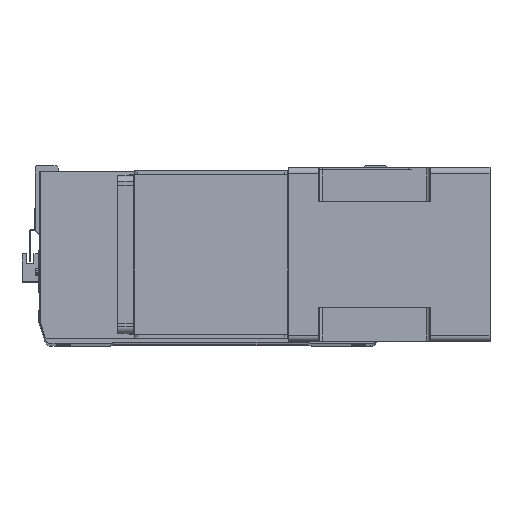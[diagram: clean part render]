
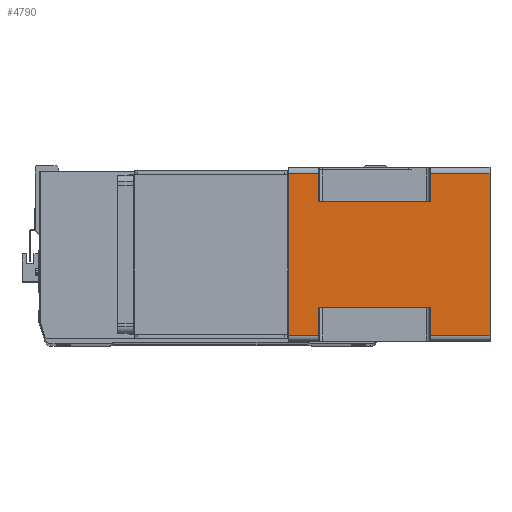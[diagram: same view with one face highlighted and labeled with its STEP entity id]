
A CAD part, top view. The second image highlights one B-rep face of the part: STEP entity #4790.
In plain terms, the highlighted planar face has unit normal (0, 0, 1) as drawn and (1, 0, 0) by its records, which use the part's own axes.
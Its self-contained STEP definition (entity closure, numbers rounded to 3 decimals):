
#24 = VECTOR ( 'NONE', #29587, 1000. ) ;
#300 = CARTESIAN_POINT ( 'NONE',  ( 71., -66., -24.5 ) ) ;
#364 = DIRECTION ( 'NONE',  ( 0., 1., 0. ) ) ;
#987 = CARTESIAN_POINT ( 'NONE',  ( 71., 66., -164. ) ) ;
#1366 = EDGE_CURVE ( 'NONE', #1552, #17228, #29724, .T. ) ;
#1520 = ORIENTED_EDGE ( 'NONE', *, *, #24515, .F. ) ;
#1552 = VERTEX_POINT ( 'NONE', #29977 ) ;
#2183 = LINE ( 'NONE', #26926, #20981 ) ;
#2441 = LINE ( 'NONE', #25177, #19812 ) ;
#2492 = VECTOR ( 'NONE', #27134, 1000. ) ;
#2821 = ORIENTED_EDGE ( 'NONE', *, *, #29781, .T. ) ;
#2990 = CARTESIAN_POINT ( 'NONE',  ( 71., -66., -164. ) ) ;
#3264 = VERTEX_POINT ( 'NONE', #300 ) ;
#3336 = CARTESIAN_POINT ( 'NONE',  ( 71., -66., -164. ) ) ;
#3593 = LINE ( 'NONE', #6299, #2492 ) ;
#3773 = EDGE_LOOP ( 'NONE', ( #1520, #5082, #20922, #17306, #19549, #2821, #7108, #7406, #15805, #6556, #18055, #8919 ) ) ;
#4172 = LINE ( 'NONE', #3336, #25496 ) ;
#4242 = CARTESIAN_POINT ( 'NONE',  ( 71., -66., -164. ) ) ;
#4362 = LINE ( 'NONE', #2990, #28265 ) ;
#4790 = ADVANCED_FACE ( 'NONE', ( #13555 ), #6046, .T. ) ;
#5082 = ORIENTED_EDGE ( 'NONE', *, *, #1366, .T. ) ;
#5339 = EDGE_CURVE ( 'NONE', #12382, #9876, #18567, .T. ) ;
#5819 = CARTESIAN_POINT ( 'NONE',  ( 71., -43., -24.5 ) ) ;
#6046 = PLANE ( 'NONE',  #11086 ) ;
#6299 = CARTESIAN_POINT ( 'NONE',  ( 71., 43., -115.5 ) ) ;
#6436 = VERTEX_POINT ( 'NONE', #14522 ) ;
#6556 = ORIENTED_EDGE ( 'NONE', *, *, #11694, .F. ) ;
#6721 = EDGE_CURVE ( 'NONE', #12382, #6436, #15840, .T. ) ;
#6904 = DIRECTION ( 'NONE',  ( 0., 1., 0. ) ) ;
#7108 = ORIENTED_EDGE ( 'NONE', *, *, #5339, .F. ) ;
#7406 = ORIENTED_EDGE ( 'NONE', *, *, #6721, .T. ) ;
#7603 = CARTESIAN_POINT ( 'NONE',  ( 71., 66., -115.5 ) ) ;
#7710 = EDGE_CURVE ( 'NONE', #15118, #12422, #27899, .T. ) ;
#8288 = DIRECTION ( 'NONE',  ( 0., 1., 0. ) ) ;
#8919 = ORIENTED_EDGE ( 'NONE', *, *, #12406, .T. ) ;
#9535 = EDGE_CURVE ( 'NONE', #3264, #10832, #4172, .T. ) ;
#9552 = DIRECTION ( 'NONE',  ( 0., 0., 1. ) ) ;
#9841 = VECTOR ( 'NONE', #6904, 1000. ) ;
#9876 = VERTEX_POINT ( 'NONE', #18185 ) ;
#10415 = VERTEX_POINT ( 'NONE', #7603 ) ;
#10747 = EDGE_CURVE ( 'NONE', #6436, #27208, #17130, .T. ) ;
#10832 = VERTEX_POINT ( 'NONE', #23135 ) ;
#11086 = AXIS2_PLACEMENT_3D ( 'NONE', #17879, #29171, #8288 ) ;
#11337 = DIRECTION ( 'NONE',  ( 0., 0., 1. ) ) ;
#11694 = EDGE_CURVE ( 'NONE', #10832, #27208, #26473, .T. ) ;
#12087 = CARTESIAN_POINT ( 'NONE',  ( 71., -66., -24.5 ) ) ;
#12382 = VERTEX_POINT ( 'NONE', #26156 ) ;
#12406 = EDGE_CURVE ( 'NONE', #3264, #25036, #17379, .T. ) ;
#12422 = VERTEX_POINT ( 'NONE', #987 ) ;
#12738 = CARTESIAN_POINT ( 'NONE',  ( 71., -43., -24.5 ) ) ;
#13146 = DIRECTION ( 'NONE',  ( 0., 0., 1. ) ) ;
#13555 = FACE_OUTER_BOUND ( 'NONE', #3773, .T. ) ;
#14522 = CARTESIAN_POINT ( 'NONE',  ( 71., 66., -24.5 ) ) ;
#15118 = VERTEX_POINT ( 'NONE', #27038 ) ;
#15151 = DIRECTION ( 'NONE',  ( 0., 0., 1. ) ) ;
#15805 = ORIENTED_EDGE ( 'NONE', *, *, #10747, .T. ) ;
#15840 = LINE ( 'NONE', #12087, #27473 ) ;
#17130 = LINE ( 'NONE', #22319, #28427 ) ;
#17228 = VERTEX_POINT ( 'NONE', #27902 ) ;
#17306 = ORIENTED_EDGE ( 'NONE', *, *, #7710, .T. ) ;
#17379 = LINE ( 'NONE', #5819, #25013 ) ;
#17879 = CARTESIAN_POINT ( 'NONE',  ( 71., -66., -164. ) ) ;
#17935 = CARTESIAN_POINT ( 'NONE',  ( 71., 43., -164. ) ) ;
#18055 = ORIENTED_EDGE ( 'NONE', *, *, #9535, .F. ) ;
#18185 = CARTESIAN_POINT ( 'NONE',  ( 71., 43., -115.5 ) ) ;
#18279 = EDGE_CURVE ( 'NONE', #12422, #10415, #2441, .T. ) ;
#18321 = CARTESIAN_POINT ( 'NONE',  ( 71., -66., 0. ) ) ;
#18567 = LINE ( 'NONE', #17935, #21093 ) ;
#19549 = ORIENTED_EDGE ( 'NONE', *, *, #18279, .T. ) ;
#19812 = VECTOR ( 'NONE', #11337, 1000. ) ;
#19940 = CARTESIAN_POINT ( 'NONE',  ( 71., -66., -115.5 ) ) ;
#20133 = DIRECTION ( 'NONE',  ( 0., -1., 0. ) ) ;
#20922 = ORIENTED_EDGE ( 'NONE', *, *, #27247, .F. ) ;
#20981 = VECTOR ( 'NONE', #29608, 1000. ) ;
#21001 = CARTESIAN_POINT ( 'NONE',  ( 71., 66., 0. ) ) ;
#21093 = VECTOR ( 'NONE', #29635, 1000. ) ;
#21984 = DIRECTION ( 'NONE',  ( 0., 1., 0. ) ) ;
#22319 = CARTESIAN_POINT ( 'NONE',  ( 71., 66., -164. ) ) ;
#23135 = CARTESIAN_POINT ( 'NONE',  ( 71., -66., 0. ) ) ;
#24515 = EDGE_CURVE ( 'NONE', #1552, #25036, #2183, .T. ) ;
#25013 = VECTOR ( 'NONE', #21984, 1000. ) ;
#25036 = VERTEX_POINT ( 'NONE', #12738 ) ;
#25177 = CARTESIAN_POINT ( 'NONE',  ( 71., 66., -164. ) ) ;
#25496 = VECTOR ( 'NONE', #15151, 1000. ) ;
#26156 = CARTESIAN_POINT ( 'NONE',  ( 71., 43., -24.5 ) ) ;
#26473 = LINE ( 'NONE', #18321, #9841 ) ;
#26727 = VECTOR ( 'NONE', #20133, 1000. ) ;
#26926 = CARTESIAN_POINT ( 'NONE',  ( 71., -43., -164. ) ) ;
#27038 = CARTESIAN_POINT ( 'NONE',  ( 71., -66., -164. ) ) ;
#27134 = DIRECTION ( 'NONE',  ( 0., -1., 0. ) ) ;
#27208 = VERTEX_POINT ( 'NONE', #21001 ) ;
#27247 = EDGE_CURVE ( 'NONE', #15118, #17228, #4362, .T. ) ;
#27473 = VECTOR ( 'NONE', #364, 1000. ) ;
#27899 = LINE ( 'NONE', #4242, #24 ) ;
#27902 = CARTESIAN_POINT ( 'NONE',  ( 71., -66., -115.5 ) ) ;
#28265 = VECTOR ( 'NONE', #9552, 1000. ) ;
#28427 = VECTOR ( 'NONE', #13146, 1000. ) ;
#29171 = DIRECTION ( 'NONE',  ( 1., 0., 0. ) ) ;
#29587 = DIRECTION ( 'NONE',  ( 0., 1., 0. ) ) ;
#29608 = DIRECTION ( 'NONE',  ( 0., 0., 1. ) ) ;
#29635 = DIRECTION ( 'NONE',  ( 0., 0., -1. ) ) ;
#29724 = LINE ( 'NONE', #19940, #26727 ) ;
#29781 = EDGE_CURVE ( 'NONE', #10415, #9876, #3593, .T. ) ;
#29977 = CARTESIAN_POINT ( 'NONE',  ( 71., -43., -115.5 ) ) ;
